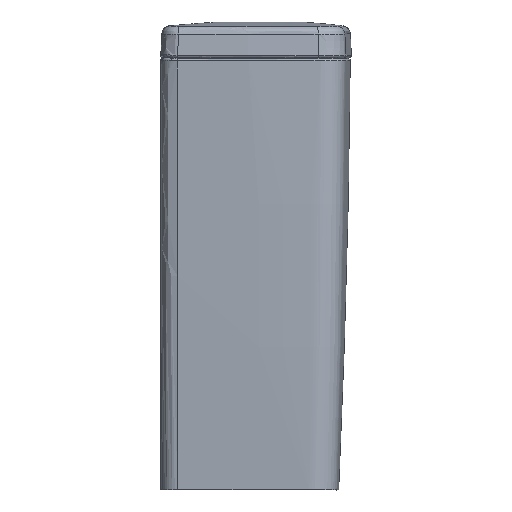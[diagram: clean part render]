
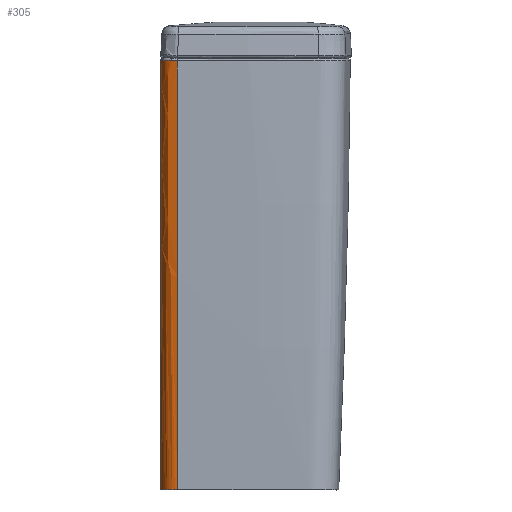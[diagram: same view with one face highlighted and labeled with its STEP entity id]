
A CAD part, left-side view. The second image highlights one B-rep face of the part: STEP entity #305.
In plain terms, the highlighted free-form (B-spline) face has degree [3, 2] with [6, 3] control points.
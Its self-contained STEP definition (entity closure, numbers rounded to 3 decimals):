
#84=(
BOUNDED_SURFACE()
B_SPLINE_SURFACE(3,2,((#8132,#8133,#8134),(#8135,#8136,#8137),(#8138,#8139,
#8140),(#8141,#8142,#8143),(#8144,#8145,#8146),(#8147,#8148,#8149)),
 .UNSPECIFIED.,.F.,.F.,.F.)
B_SPLINE_SURFACE_WITH_KNOTS((4,2,4),(3,3),(0.,0.5,1.),(0.,1.),
 .UNSPECIFIED.)
GEOMETRIC_REPRESENTATION_ITEM()
RATIONAL_B_SPLINE_SURFACE(((1.,0.729,1.),(1.,0.728,
1.),(1.,0.727,1.),(1.,0.725,1.),(1.,0.724,
1.),(1.,0.722,1.)))
REPRESENTATION_ITEM('')
SURFACE()
);
#203=FACE_OUTER_BOUND('',#536,.T.);
#305=ADVANCED_FACE('',(#203),#84,.T.);
#536=EDGE_LOOP('',(#961,#962,#963,#964,#965,#966));
#961=ORIENTED_EDGE('',*,*,#1473,.T.);
#962=ORIENTED_EDGE('',*,*,#1474,.T.);
#963=ORIENTED_EDGE('',*,*,#1439,.F.);
#964=ORIENTED_EDGE('',*,*,#1260,.F.);
#965=ORIENTED_EDGE('',*,*,#1462,.F.);
#966=ORIENTED_EDGE('',*,*,#1475,.T.);
#1095=VERTEX_POINT('',#2369);
#1096=VERTEX_POINT('',#2376);
#1210=VERTEX_POINT('',#7183);
#1225=VERTEX_POINT('',#7389);
#1232=VERTEX_POINT('',#8122);
#1233=VERTEX_POINT('',#8123);
#1260=EDGE_CURVE('',#1095,#1096,#1517,.T.);
#1439=EDGE_CURVE('',#1096,#1210,#1648,.T.);
#1462=EDGE_CURVE('',#1225,#1095,#1668,.T.);
#1473=EDGE_CURVE('',#1232,#1233,#1679,.T.);
#1474=EDGE_CURVE('',#1233,#1210,#1680,.T.);
#1475=EDGE_CURVE('',#1225,#1232,#1681,.T.);
#1517=B_SPLINE_CURVE_WITH_KNOTS('',3,(#2370,#2371,#2372,#2373,#2374,#2375),
 .UNSPECIFIED.,.F.,.F.,(4,2,4),(0.,0.5,1.),.UNSPECIFIED.);
#1648=B_SPLINE_CURVE_WITH_KNOTS('',3,(#7179,#7180,#7181,#7182),
 .UNSPECIFIED.,.F.,.F.,(4,4),(0.,1.),.UNSPECIFIED.);
#1668=B_SPLINE_CURVE_WITH_KNOTS('',3,(#7390,#7391,#7392,#7393),
 .UNSPECIFIED.,.F.,.F.,(4,4),(0.,1.),.UNSPECIFIED.);
#1679=B_SPLINE_CURVE_WITH_KNOTS('',3,(#8116,#8117,#8118,#8119,#8120,#8121),
 .UNSPECIFIED.,.F.,.F.,(4,2,4),(0.,0.5,1.),.UNSPECIFIED.);
#1680=B_SPLINE_CURVE_WITH_KNOTS('',3,(#8124,#8125,#8126,#8127),
 .UNSPECIFIED.,.F.,.F.,(4,4),(0.,1.),.UNSPECIFIED.);
#1681=B_SPLINE_CURVE_WITH_KNOTS('',3,(#8128,#8129,#8130,#8131),
 .UNSPECIFIED.,.F.,.F.,(4,4),(0.,1.),.UNSPECIFIED.);
#2369=CARTESIAN_POINT('',(-179.693,105.645,445.));
#2370=CARTESIAN_POINT('',(-179.692,105.645,445.));
#2371=CARTESIAN_POINT('',(-179.526,109.498,445.));
#2372=CARTESIAN_POINT('',(-177.829,113.198,445.));
#2373=CARTESIAN_POINT('',(-172.317,118.468,445.));
#2374=CARTESIAN_POINT('',(-168.537,120.,445.));
#2375=CARTESIAN_POINT('',(-164.681,120.,445.));
#2376=CARTESIAN_POINT('',(-164.681,120.,445.));
#7179=CARTESIAN_POINT('',(-164.681,120.,445.));
#7180=CARTESIAN_POINT('',(-171.748,120.,565.367));
#7181=CARTESIAN_POINT('',(-176.182,120.,685.885));
#7182=CARTESIAN_POINT('',(-177.94,120.,806.447));
#7183=CARTESIAN_POINT('',(-177.94,120.,806.447));
#7389=CARTESIAN_POINT('',(-192.912,105.924,806.366));
#7390=CARTESIAN_POINT('',(-192.912,105.924,806.366));
#7391=CARTESIAN_POINT('',(-191.167,105.87,686.306));
#7392=CARTESIAN_POINT('',(-186.78,105.775,565.812));
#7393=CARTESIAN_POINT('',(-179.693,105.645,445.));
#8116=CARTESIAN_POINT('',(-191.592,111.224,806.674));
#8117=CARTESIAN_POINT('',(-190.801,112.965,806.863));
#8118=CARTESIAN_POINT('',(-189.638,114.602,806.964));
#8119=CARTESIAN_POINT('',(-186.783,117.279,806.987));
#8120=CARTESIAN_POINT('',(-185.1,118.315,806.909));
#8121=CARTESIAN_POINT('',(-183.367,118.986,806.739));
#8122=CARTESIAN_POINT('',(-191.592,111.224,806.674));
#8123=CARTESIAN_POINT('',(-183.367,118.986,806.739));
#8124=CARTESIAN_POINT('',(-183.367,118.986,806.739));
#8125=CARTESIAN_POINT('',(-181.612,119.665,806.54));
#8126=CARTESIAN_POINT('',(-179.738,120.,806.443));
#8127=CARTESIAN_POINT('',(-177.94,120.,806.447));
#8128=CARTESIAN_POINT('',(-192.912,105.924,806.366));
#8129=CARTESIAN_POINT('',(-192.801,107.71,806.366));
#8130=CARTESIAN_POINT('',(-192.357,109.54,806.469));
#8131=CARTESIAN_POINT('',(-191.592,111.224,806.674));
#8132=CARTESIAN_POINT('',(-177.981,120.,809.329));
#8133=CARTESIAN_POINT('',(-192.081,120.,809.128));
#8134=CARTESIAN_POINT('',(-192.951,105.925,809.116));
#8135=CARTESIAN_POINT('',(-177.112,120.,748.205));
#8136=CARTESIAN_POINT('',(-191.236,120.,747.846));
#8137=CARTESIAN_POINT('',(-192.082,105.898,747.88));
#8138=CARTESIAN_POINT('',(-175.557,120.,687.093));
#8139=CARTESIAN_POINT('',(-189.712,120.,686.589));
#8140=CARTESIAN_POINT('',(-190.527,105.86,686.656));
#8141=CARTESIAN_POINT('',(-171.081,120.,564.915));
#8142=CARTESIAN_POINT('',(-185.317,120.,564.195));
#8143=CARTESIAN_POINT('',(-186.047,105.765,564.255));
#8144=CARTESIAN_POINT('',(-168.136,120.,503.854));
#8145=CARTESIAN_POINT('',(-182.418,120.,502.984));
#8146=CARTESIAN_POINT('',(-183.1,105.708,503.077));
#8147=CARTESIAN_POINT('',(-164.553,120.,442.829));
#8148=CARTESIAN_POINT('',(-178.9,120.,441.987));
#8149=CARTESIAN_POINT('',(-179.514,105.642,441.951));
